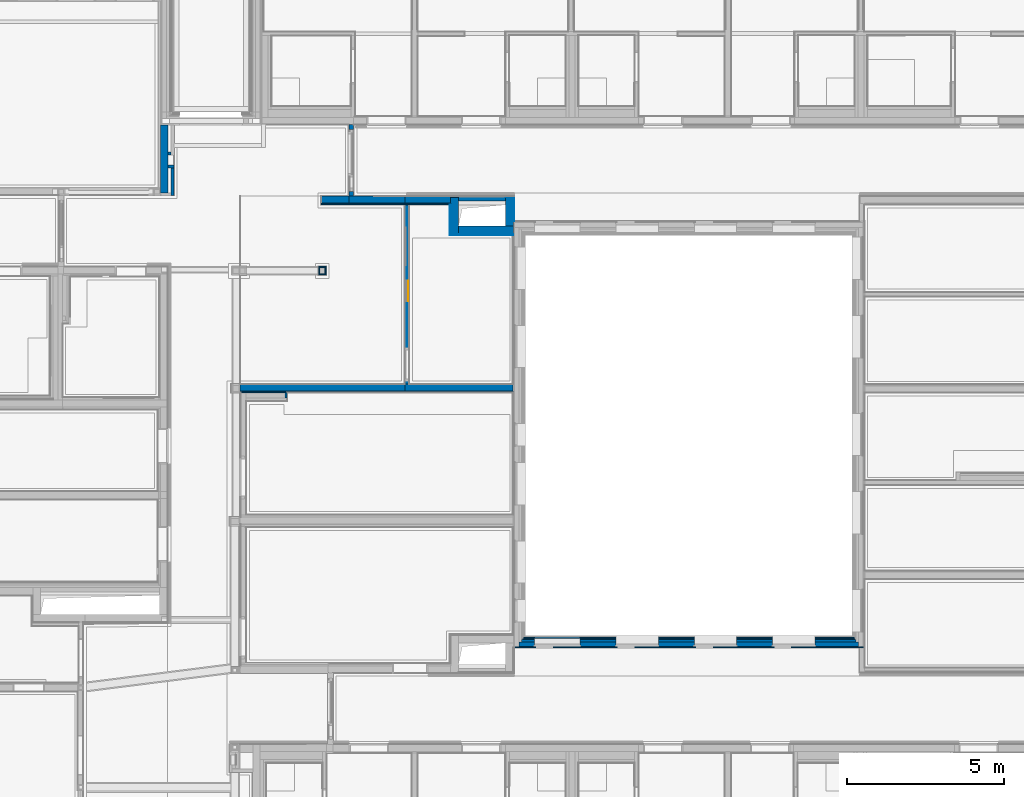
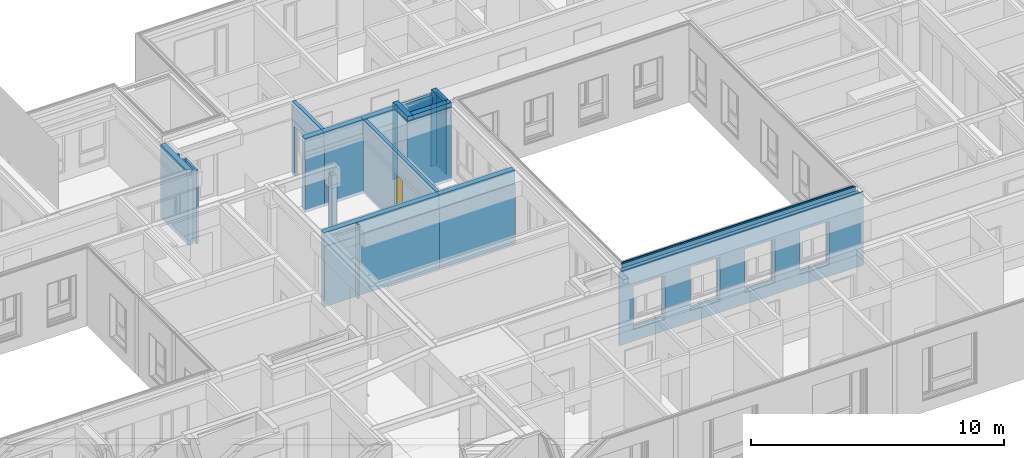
# One storey, part 46 of 222: 35 walls, 1 window, 23 openings.
"""IFC4 building model written with IfcOpenShell, lengths in metres."""

from ifc_helpers import new_model, entity, si_unit, converted_unit, derived_unit, frame, frame_2d, origin, origin_with_axes, place, context, subcontext, project, spatial, polyline, rectangle, outline, extrude, clip, bounded_halfspace, open_shell, surface_model, source, transform, mapped, material, element, fill, save


model = new_model("IFC4")

# Units and contexts
model_context = context("Model", 3, precision=1e-05, world=origin())
body_context = subcontext(model_context, "Body", "Model", "MODEL_VIEW")
ifc_project = project(units=[si_unit("LENGTHUNIT", "METRE"), si_unit("AREAUNIT", "SQUARE_METRE"), si_unit("VOLUMEUNIT", "CUBIC_METRE"), si_unit("MASSUNIT", "GRAM", prefix="KILO"), converted_unit("PLANEANGLEUNIT", "DEGREE", entity("IfcPlaneAngleMeasure", 0.0174532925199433), si_unit("PLANEANGLEUNIT", "RADIAN"), dimensions=[0, 0, 0, 0, 0, 0, 0]), derived_unit("THERMALTRANSMITTANCEUNIT", [(si_unit("POWERUNIT", "WATT"), 1), (si_unit("THERMODYNAMICTEMPERATUREUNIT", "KELVIN"), -1), (si_unit("LENGTHUNIT", "METRE"), -2)]), derived_unit("VOLUMETRICFLOWRATEUNIT", [(si_unit("LENGTHUNIT", "METRE"), 3), (converted_unit("TIMEUNIT", "hour", entity("IfcTimeMeasure", 3600.0), si_unit("TIMEUNIT", "SECOND"), dimensions=[0, 0, 1, 0, 0, 0, 0]), -1), (si_unit("LENGTHUNIT", "METRE"), -1)])], contexts=[model_context])

# Site, building, storey
site_placement = place(None, origin())
site = spatial("IfcSite", under=ifc_project, at=site_placement, Name="Psychiatrie Neubau Wunstorf", CompositionType="ELEMENT")
building_placement = place(site_placement, origin())
building = spatial("IfcBuilding", under=site, at=building_placement, Name="Neubau H2 Stationsgebäude", CompositionType="ELEMENT")
storey_placement = place(building_placement, frame((0.0, 0.0, 3.6)))
storey = spatial("IfcBuildingStorey", under=building, at=storey_placement, Name="H2 Ebene +1", CompositionType="ELEMENT", Elevation=3.6)

# Wall, openings
ifc_material_1 = material(Name="WA-LB")
wall_1_placement = place(storey_placement, frame((79.175, 8.41400000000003, 0.0), z_axis=(0.0, 0.0, 1.0), x_axis=(1.0, -6.52552252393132e-16, 0.0)))
wall_1 = element("IfcWall", 1, at=wall_1_placement, inside=storey, material=ifc_material_1, context=body_context, shape_type="SweptSolid", body=[
    extrude(rectangle(XDim=11.15, YDim=0.036, at=frame_2d((5.575, 0.018), x_axis=(1.0, 0.0))), origin_with_axes(), (0.0, 0.0, 1.0), 3.55),
])
opening_1_placement = place(wall_1_placement, frame((4.6047, 0.0359999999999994, 0.55), z_axis=(0.0, -1.0, 0.0), x_axis=(0.0, 0.0, 1.0)))
element("IfcOpeningElement", 2, at=opening_1_placement, cuts=wall_1, Name="Fensteröffnung", ObjectType="Opening", context=body_context, shape_type="SweptSolid", body=[
    extrude(outline(polyline([(2.115, 1.35), (2.115, 0.0), (0.0, 0.0), (0.0, 1.35), (2.115, 1.35)])), origin_with_axes(), (0.0, 0.0, 1.0), 0.036),
])
opening_2_placement = place(wall_1_placement, frame((7.1047, 0.0359999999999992, 0.55), z_axis=(0.0, -1.0, 0.0), x_axis=(0.0, 0.0, 1.0)))
element("IfcOpeningElement", 3, at=opening_2_placement, cuts=wall_1, Name="Fensteröffnung", ObjectType="Opening", context=body_context, shape_type="SweptSolid", body=[
    extrude(outline(polyline([(2.115, 1.35), (2.115, 0.0), (0.0, 0.0), (0.0, 1.35), (2.115, 1.35)])), origin_with_axes(), (0.0, 0.0, 1.0), 0.036),
])
opening_3_placement = place(wall_1_placement, frame((9.6047, 0.0360000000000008, 0.55), z_axis=(0.0, -1.0, 0.0), x_axis=(0.0, 0.0, 1.0)))
element("IfcOpeningElement", 4, at=opening_3_placement, cuts=wall_1, Name="Fensteröffnung", ObjectType="Opening", context=body_context, shape_type="SweptSolid", body=[
    extrude(outline(polyline([(2.115, 1.35), (2.115, 0.0), (0.0, 0.0), (0.0, 1.35), (2.115, 1.35)])), origin_with_axes(), (0.0, 0.0, 1.0), 0.036),
])
opening_4_placement = place(wall_1_placement, frame((2.1048371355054, 0.0359999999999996, 0.55), z_axis=(0.0, -1.0, 0.0), x_axis=(0.0, 0.0, 1.0)))
element("IfcOpeningElement", 5, at=opening_4_placement, cuts=wall_1, Name="Fensteröffnung", ObjectType="Opening", context=body_context, shape_type="SweptSolid", body=[
    extrude(outline(polyline([(2.115, 1.45), (2.115, 0.0), (0.0, 0.0), (0.0, 1.45), (2.115, 1.45)])), origin_with_axes(), (0.0, 0.0, 1.0), 0.036),
])

ifc_material_2 = material(Name="WA-DL")
wall_2_placement = place(storey_placement, frame((79.335, 8.45000000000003, 0.0), z_axis=(0.0, 0.0, 1.0), x_axis=(1.0, -6.71833574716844e-16, 0.0)))
wall_2 = element("IfcWall", 6, at=wall_2_placement, inside=storey, material=ifc_material_2, context=body_context, shape_type="SweptSolid", body=[
    extrude(rectangle(XDim=10.83, YDim=0.16, at=frame_2d((5.415, 0.08), x_axis=(1.0, 0.0))), origin_with_axes(), (0.0, 0.0, 1.0), 3.55),
])
opening_5_placement = place(wall_2_placement, frame((1.9448371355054, 0.16, 0.55), z_axis=(0.0, -1.0, 0.0), x_axis=(0.0, 0.0, 1.0)))
element("IfcOpeningElement", 7, at=opening_5_placement, cuts=wall_2, Name="Fensteröffnung", ObjectType="Opening", context=body_context, shape_type="SweptSolid", body=[
    extrude(outline(polyline([(2.115, 1.45), (2.115, 0.0), (0.0, 0.0), (0.0, 1.45), (2.115, 1.45)])), origin_with_axes(), (0.0, 0.0, 1.0), 0.16),
])
opening_6_placement = place(wall_2_placement, frame((9.4447, 0.160000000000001, 0.55), z_axis=(0.0, -1.0, 0.0), x_axis=(0.0, 0.0, 1.0)))
element("IfcOpeningElement", 8, at=opening_6_placement, cuts=wall_2, Name="Fensteröffnung", ObjectType="Opening", context=body_context, shape_type="SweptSolid", body=[
    extrude(outline(polyline([(2.115, 1.35), (2.115, 0.0), (0.0, 0.0), (0.0, 1.35), (2.115, 1.35)])), origin_with_axes(), (0.0, 0.0, 1.0), 0.16),
])
opening_7_placement = place(wall_2_placement, frame((6.9447, 0.159999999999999, 0.55), z_axis=(0.0, -1.0, 0.0), x_axis=(0.0, 0.0, 1.0)))
element("IfcOpeningElement", 9, at=opening_7_placement, cuts=wall_2, Name="Fensteröffnung", ObjectType="Opening", context=body_context, shape_type="SweptSolid", body=[
    extrude(outline(polyline([(2.115, 1.35), (2.115, 0.0), (0.0, 0.0), (0.0, 1.35), (2.115, 1.35)])), origin_with_axes(), (0.0, 0.0, 1.0), 0.16),
])
opening_8_placement = place(wall_2_placement, frame((4.4447, 0.159999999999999, 0.55), z_axis=(0.0, -1.0, 0.0), x_axis=(0.0, 0.0, 1.0)))
element("IfcOpeningElement", 10, at=opening_8_placement, cuts=wall_2, Name="Fensteröffnung", ObjectType="Opening", context=body_context, shape_type="SweptSolid", body=[
    extrude(outline(polyline([(2.115, 1.35), (2.115, 0.0), (0.0, 0.0), (0.0, 1.35), (2.115, 1.35)])), origin_with_axes(), (0.0, 0.0, 1.0), 0.16),
])

ifc_material_3 = material(Name="WA-DL")
wall_3_placement = place(storey_placement, frame((79.415, 8.61000000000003, 0.0), z_axis=(0.0, 0.0, 1.0), x_axis=(1.0, -6.81907930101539e-16, 0.0)))
wall_3 = element("IfcWall", 11, at=wall_3_placement, inside=storey, material=ifc_material_3, context=body_context, shape_type="SweptSolid", body=[
    extrude(rectangle(XDim=10.67, YDim=0.080009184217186, at=frame_2d((5.335, 0.040004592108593), x_axis=(1.0, 0.0))), origin_with_axes(), (0.0, 0.0, 1.0), 3.75),
])
opening_9_placement = place(wall_3_placement, frame((1.8648371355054, 0.08000918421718, 0.55), z_axis=(0.0, -1.0, 0.0), x_axis=(0.0, 0.0, 1.0)))
element("IfcOpeningElement", 12, at=opening_9_placement, cuts=wall_3, Name="Fensteröffnung", ObjectType="Opening", context=body_context, shape_type="SweptSolid", body=[
    extrude(outline(polyline([(2.115, 1.45), (2.115, 0.0), (0.0, 0.0), (0.0, 1.45), (2.115, 1.45)])), origin_with_axes(), (0.0, 0.0, 1.0), 0.0800091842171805),
])
opening_10_placement = place(wall_3_placement, frame((9.3647, 0.0800091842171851, 0.55), z_axis=(0.0, -1.0, 0.0), x_axis=(0.0, 0.0, 1.0)))
element("IfcOpeningElement", 13, at=opening_10_placement, cuts=wall_3, Name="Fensteröffnung", ObjectType="Opening", context=body_context, shape_type="SweptSolid", body=[
    extrude(outline(polyline([(2.115, 1.35), (2.115, 0.0), (0.0, 0.0), (0.0, 1.35), (2.115, 1.35)])), origin_with_axes(), (0.0, 0.0, 1.0), 0.080009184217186),
])
opening_11_placement = place(wall_3_placement, frame((6.8647, 0.0800091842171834, 0.55), z_axis=(0.0, -1.0, 0.0), x_axis=(0.0, 0.0, 1.0)))
element("IfcOpeningElement", 14, at=opening_11_placement, cuts=wall_3, Name="Fensteröffnung", ObjectType="Opening", context=body_context, shape_type="SweptSolid", body=[
    extrude(outline(polyline([(2.115, 1.35), (2.115, 0.0), (0.0, 0.0), (0.0, 1.35), (2.115, 1.35)])), origin_with_axes(), (0.0, 0.0, 1.0), 0.0800091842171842),
])
opening_12_placement = place(wall_3_placement, frame((4.3647, 0.0800091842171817, 0.55), z_axis=(0.0, -1.0, 0.0), x_axis=(0.0, 0.0, 1.0)))
element("IfcOpeningElement", 15, at=opening_12_placement, cuts=wall_3, Name="Fensteröffnung", ObjectType="Opening", context=body_context, shape_type="SweptSolid", body=[
    extrude(outline(polyline([(2.115, 1.35), (2.115, 0.0), (0.0, 0.0), (0.0, 1.35), (2.115, 1.35)])), origin_with_axes(), (0.0, 0.0, 1.0), 0.0800091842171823),
])

ifc_material_4 = material(Name="WA-LB")
wall_4_placement = place(storey_placement, frame((79.451, 8.69000918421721, 0.0)))
wall_4 = element("IfcWall", 16, at=wall_4_placement, inside=storey, material=ifc_material_4, context=body_context, shape_type="SweptSolid", body=[
    extrude(rectangle(XDim=10.598, YDim=0.036, at=frame_2d((5.299, 0.018), x_axis=(1.0, 0.0))), origin_with_axes(), (0.0, 0.0, 1.0), 3.75),
])
opening_13_placement = place(wall_4_placement, frame((1.8288371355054, 0.036, 0.55), z_axis=(0.0, -1.0, 0.0), x_axis=(0.0, 0.0, 1.0)))
element("IfcOpeningElement", 17, at=opening_13_placement, cuts=wall_4, Name="Fensteröffnung", ObjectType="Opening", context=body_context, shape_type="SweptSolid", body=[
    extrude(outline(polyline([(2.115, 1.45), (2.115, 0.0), (0.0, 0.0), (0.0, 1.45), (2.115, 1.45)])), origin_with_axes(), (0.0, 0.0, 1.0), 0.036),
])
opening_14_placement = place(wall_4_placement, frame((9.3287, 0.036, 0.55), z_axis=(0.0, -1.0, 0.0), x_axis=(0.0, 0.0, 1.0)))
element("IfcOpeningElement", 18, at=opening_14_placement, cuts=wall_4, Name="Fensteröffnung", ObjectType="Opening", context=body_context, shape_type="SweptSolid", body=[
    extrude(outline(polyline([(2.115, 1.35), (2.115, 0.0), (0.0, 0.0), (0.0, 1.35), (2.115, 1.35)])), origin_with_axes(), (0.0, 0.0, 1.0), 0.036),
])
opening_15_placement = place(wall_4_placement, frame((6.8287, 0.036, 0.55), z_axis=(0.0, -1.0, 0.0), x_axis=(0.0, 0.0, 1.0)))
element("IfcOpeningElement", 19, at=opening_15_placement, cuts=wall_4, Name="Fensteröffnung", ObjectType="Opening", context=body_context, shape_type="SweptSolid", body=[
    extrude(outline(polyline([(2.115, 1.35), (2.115, 0.0), (0.0, 0.0), (0.0, 1.35), (2.115, 1.35)])), origin_with_axes(), (0.0, 0.0, 1.0), 0.036),
])
opening_16_placement = place(wall_4_placement, frame((4.3287, 0.036, 0.55), z_axis=(0.0, -1.0, 0.0), x_axis=(0.0, 0.0, 1.0)))
element("IfcOpeningElement", 20, at=opening_16_placement, cuts=wall_4, Name="Fensteröffnung", ObjectType="Opening", context=body_context, shape_type="SweptSolid", body=[
    extrude(outline(polyline([(2.115, 1.35), (2.115, 0.0), (0.0, 0.0), (0.0, 1.35), (2.115, 1.35)])), origin_with_axes(), (0.0, 0.0, 1.0), 0.036),
])

ifc_material_5 = material(Name="WA-KL")
wall_5_placement = place(storey_placement, frame((79.475, 8.72600918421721, 0.0)))
wall_5 = element("IfcWall", 21, at=wall_5_placement, inside=storey, material=ifc_material_5, context=body_context, shape_type="SweptSolid", body=[
    extrude(rectangle(XDim=10.55, YDim=0.024, at=frame_2d((5.275, 0.012), x_axis=(1.0, 0.0))), origin_with_axes(), (0.0, 0.0, 1.0), 3.75),
])
opening_17_placement = place(wall_5_placement, frame((1.8048371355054, 0.024, 0.55), z_axis=(0.0, -1.0, 0.0), x_axis=(0.0, 0.0, 1.0)))
element("IfcOpeningElement", 22, at=opening_17_placement, cuts=wall_5, Name="Fensteröffnung", ObjectType="Opening", context=body_context, shape_type="SweptSolid", body=[
    extrude(outline(polyline([(2.115, 1.45), (2.115, 0.0), (0.0, 0.0), (0.0, 1.45), (2.115, 1.45)])), origin_with_axes(), (0.0, 0.0, 1.0), 0.024),
])
opening_18_placement = place(wall_5_placement, frame((9.3047, 0.024, 0.55), z_axis=(0.0, -1.0, 0.0), x_axis=(0.0, 0.0, 1.0)))
element("IfcOpeningElement", 23, at=opening_18_placement, cuts=wall_5, Name="Fensteröffnung", ObjectType="Opening", context=body_context, shape_type="SweptSolid", body=[
    extrude(outline(polyline([(2.115, 1.35), (2.115, 0.0), (0.0, 0.0), (0.0, 1.35), (2.115, 1.35)])), origin_with_axes(), (0.0, 0.0, 1.0), 0.024),
])
opening_19_placement = place(wall_5_placement, frame((6.8047, 0.024, 0.55), z_axis=(0.0, -1.0, 0.0), x_axis=(0.0, 0.0, 1.0)))
element("IfcOpeningElement", 24, at=opening_19_placement, cuts=wall_5, Name="Fensteröffnung", ObjectType="Opening", context=body_context, shape_type="SweptSolid", body=[
    extrude(outline(polyline([(2.115, 1.35), (2.115, 0.0), (0.0, 0.0), (0.0, 1.35), (2.115, 1.35)])), origin_with_axes(), (0.0, 0.0, 1.0), 0.024),
])
opening_20_placement = place(wall_5_placement, frame((4.3047, 0.024, 0.55), z_axis=(0.0, -1.0, 0.0), x_axis=(0.0, 0.0, 1.0)))
element("IfcOpeningElement", 25, at=opening_20_placement, cuts=wall_5, Name="Fensteröffnung", ObjectType="Opening", context=body_context, shape_type="SweptSolid", body=[
    extrude(outline(polyline([(2.115, 1.35), (2.115, 0.0), (0.0, 0.0), (0.0, 1.35), (2.115, 1.35)])), origin_with_axes(), (0.0, 0.0, 1.0), 0.024),
])

# Walls
ifc_material_6 = material(Name="WI-IW")
wall_6_placement = place(storey_placement, frame((71.9300000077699, 16.3855, 0.0), z_axis=(0.0, 0.0, 1.0), x_axis=(0.0, 1.0, 0.0)))
element("IfcWall", 26, at=wall_6_placement, inside=storey, material=ifc_material_6, context=body_context, shape_type="SweptSolid", body=[
    extrude(rectangle(XDim=0.175, YDim=0.075, at=frame_2d((0.0875, 0.0375), x_axis=(1.0, 0.0))), origin_with_axes(), (0.0, 0.0, 1.0), 3.55),
])
ifc_material_7 = material(Name="WI-LB")
wall_7_placement = place(storey_placement, frame((77.15, 21.6250000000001, 0.0), z_axis=(0.0, 0.0, 1.0), x_axis=(0.0, 1.0, 0.0)))
element("IfcWall", 27, at=wall_7_placement, inside=storey, material=ifc_material_7, context=body_context, shape_type="SweptSolid", body=[
    extrude(rectangle(XDim=0.938999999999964, YDim=0.0299996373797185, at=frame_2d((0.469499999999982, 0.0149998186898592), x_axis=(1.0, 0.0))), origin_with_axes(), (0.0, 0.0, 1.0), 3.55),
])
ifc_material_8 = material(Name="WI-LB")
wall_8_placement = place(storey_placement, frame((79.15, 22.8060000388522, 0.0), z_axis=(0.0, 0.0, 1.0), x_axis=(0.0, -1.0, 0.0)))
element("IfcWall", 28, at=wall_8_placement, inside=storey, material=ifc_material_8, context=body_context, shape_type="SweptSolid", body=[
    extrude(rectangle(XDim=0.770000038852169, YDim=0.0299996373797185, at=frame_2d((0.385000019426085, 0.0149998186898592), x_axis=(1.0, 0.0))), origin_with_axes(), (0.0, 0.0, 1.0), 3.55),
])
ifc_material_9 = material(Name="WI-HW 60")
wall_9_placement = place(storey_placement, frame((68.121, 22.9389999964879, 0.0), z_axis=(0.0, 0.0, 1.0), x_axis=(0.0, 1.0, 0.0)))
element("IfcWall", 29, at=wall_9_placement, inside=storey, material=ifc_material_9, context=body_context, shape_type="Clipping", body=[
    clip(extrude(rectangle(XDim=2.17500366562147, YDim=0.232, at=frame_2d((1.08750183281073, 0.116), x_axis=(1.0, 0.0))), origin_with_axes(), (0.0, 0.0, 1.0), 3.55), bounded_halfspace(frame((0.0605000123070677, 0.149999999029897, 3.25), z_axis=(0.0, 0.0, -1.0), x_axis=(0.999999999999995, -9.94981656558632e-08, 0.0)), True, origin_with_axes(), polyline([(0.0, 0.0680000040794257), (0.121000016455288, 0.067999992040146), (0.12100003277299, 0.232), (0.0, 0.232), (0.0, 0.0680000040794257)]))),
])
ifc_material_10 = material(Name="WI-LB")
wall_10_placement = place(storey_placement, frame((73.9, 22.564, 0.0), z_axis=(0.0, 0.0, 1.0), x_axis=(1.0, 3.05883868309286e-14, 0.0)))
element("IfcWall", 30, at=wall_10_placement, inside=storey, material=ifc_material_10, context=body_context, shape_type="SweptSolid", body=[
    extrude(rectangle(XDim=1.78399999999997, YDim=0.04, at=frame_2d((0.891999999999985, 0.02), x_axis=(1.0, 0.0))), origin_with_axes(), (0.0, 0.0, 1.0), 2.9),
])
ifc_material_11 = material(Name="WI-HW 60")
wall_11_placement = place(storey_placement, frame((73.9, 22.604, 0.0), z_axis=(0.0, 0.0, 1.0), x_axis=(1.0, 3.05883868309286e-14, 0.0)))
element("IfcWall", 31, at=wall_11_placement, inside=storey, material=ifc_material_11, context=body_context, shape_type="SweptSolid", body=[
    extrude(rectangle(XDim=1.78399999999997, YDim=0.232, at=frame_2d((0.891999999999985, 0.116), x_axis=(1.0, 0.0))), origin_with_axes(), (0.0, 0.0, 1.0), 3.55),
])
ifc_material_12 = material(Name="WI-LB")
wall_12_placement = place(storey_placement, frame((73.0219999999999, 22.5640000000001, 0.0), z_axis=(0.0, 0.0, 1.0), x_axis=(1.0, -6.21522575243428e-14, 0.0)))
element("IfcWall", 32, at=wall_12_placement, inside=storey, material=ifc_material_12, context=body_context, shape_type="SweptSolid", body=[
    extrude(rectangle(XDim=0.878000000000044, YDim=0.04, at=frame_2d((0.439000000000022, 0.02), x_axis=(1.0, 0.0))), origin_with_axes(), (0.0, 0.0, 1.0), 2.9),
])
ifc_material_13 = material(Name="WI-HW 60")
wall_13_placement = place(storey_placement, frame((73.022, 22.6040000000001, 0.0), z_axis=(0.0, 0.0, 1.0), x_axis=(1.0, -6.21522575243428e-14, 0.0)))
element("IfcWall", 33, at=wall_13_placement, inside=storey, material=ifc_material_13, context=body_context, shape_type="SweptSolid", body=[
    extrude(rectangle(XDim=0.878000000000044, YDim=0.232000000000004, at=frame_2d((0.439000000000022, 0.116000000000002), x_axis=(1.0, 0.0))), origin_with_axes(), (0.0, 0.0, 1.0), 3.55),
])
ifc_material_14 = material(Name="WI-STB")
wall_14_placement = place(storey_placement, frame((79.15, 21.8750000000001, 0.0), z_axis=(0.0, 0.0, 1.0), x_axis=(0.0, 1.0, 0.0)))
element("IfcWall", 34, at=wall_14_placement, inside=storey, material=ifc_material_14, context=body_context, shape_type="Clipping", body=[
    clip(extrude(rectangle(XDim=0.930999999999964, YDim=0.25, at=frame_2d((0.465499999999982, 0.125), x_axis=(1.0, 0.0))), origin_with_axes(), (0.0, 0.0, 1.0), 3.75), bounded_halfspace(frame((0.80600042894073, 0.125, 0.1), z_axis=(0.0, 0.0, 1.0), x_axis=(0.0, -1.0, 0.0)), True, origin_with_axes(), polyline([(0.6810008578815, 0.25), (0.6810008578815, 0.0), (0.930999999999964, 0.0), (0.930999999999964, 0.25), (0.6810008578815, 0.25)]))),
])
ifc_material_15 = material(Name="WI-LB")
wall_15_placement = place(storey_placement, frame((75.684, 22.5640000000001, 0.0)))
element("IfcWall", 35, at=wall_15_placement, inside=storey, material=ifc_material_15, context=body_context, shape_type="SweptSolid", body=[
    extrude(rectangle(XDim=1.466, YDim=0.04, at=frame_2d((0.733, 0.02), x_axis=(1.0, 0.0))), origin_with_axes(), (0.0, 0.0, 1.0), 2.9),
])
ifc_material_16 = material(Name="WI-HW 60")
wall_16_placement = place(storey_placement, frame((75.684, 22.6040000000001, 0.0)))
element("IfcWall", 36, at=wall_16_placement, inside=storey, material=ifc_material_16, context=body_context, shape_type="SweptSolid", body=[
    extrude(rectangle(XDim=1.466, YDim=0.232, at=frame_2d((0.733, 0.116), x_axis=(1.0, 0.0))), origin_with_axes(), (0.0, 0.0, 1.0), 3.55),
])
ifc_material_17 = material(Name="WI-STB")
wall_17_placement = place(storey_placement, frame((77.4, 21.6250000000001, 0.0), z_axis=(0.0, 0.0, 1.0), x_axis=(0.0, 1.0, 0.0)))
element("IfcWall", 37, at=wall_17_placement, inside=storey, material=ifc_material_17, context=body_context, shape_type="Clipping", body=[
    clip(extrude(rectangle(XDim=1.18099999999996, YDim=0.25, at=frame_2d((0.590499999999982, 0.125), x_axis=(1.0, 0.0))), origin_with_axes(), (0.0, 0.0, 1.0), 3.75), bounded_halfspace(frame((1.05600042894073, 0.125, 0.1), z_axis=(0.0, 0.0, 1.0), x_axis=(0.0, -1.0, 0.0)), True, origin_with_axes(), polyline([(0.9310008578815, 0.25), (0.9310008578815, 0.0), (1.18099999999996, 0.0), (1.18099999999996, 0.25), (0.9310008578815, 0.25)]))),
])
ifc_material_18 = material(Name="WI-LB")
wall_18_placement = place(storey_placement, frame((77.1200003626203, 21.5950003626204, 0.0)))
element("IfcWall", 38, at=wall_18_placement, inside=storey, material=ifc_material_18, context=body_context, shape_type="SweptSolid", body=[
    extrude(rectangle(XDim=2.02999963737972, YDim=0.0299996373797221, at=frame_2d((1.01499981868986, 0.0149998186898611), x_axis=(1.0, 0.0))), origin_with_axes(), (0.0, 0.0, 1.0), 3.55),
])
ifc_material_19 = material(Name="WI-STB")
wall_19_placement = place(storey_placement, frame((77.4, 21.6250000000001, 0.0)))
element("IfcWall", 39, at=wall_19_placement, inside=storey, material=ifc_material_19, context=body_context, shape_type="SweptSolid", body=[
    extrude(rectangle(XDim=1.75, YDim=0.25, at=frame_2d((0.875, 0.125), x_axis=(1.0, 0.0))), origin_with_axes(), (0.0, 0.0, 1.0), 3.75),
])
ifc_material_20 = material(Name="WI-GKF")
wall_20_placement = place(storey_placement, frame((73.1719970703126, 20.3560022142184, 0.0), z_axis=(0.0, 0.0, 1.0), x_axis=(0.0, 1.0, 0.0)))
element("IfcWall", 40, at=wall_20_placement, inside=storey, material=ifc_material_20, context=body_context, shape_type="SweptSolid", body=[
    extrude(rectangle(XDim=0.2, YDim=0.036, at=frame_2d((0.1, 0.018), x_axis=(1.0, 0.0))), origin_with_axes(), (0.0, 0.0, 1.0), 3.15),
])
ifc_material_21 = material(Name="WI-GKF")
wall_21_placement = place(storey_placement, frame((73.172, 20.5920022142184, 0.0), z_axis=(0.0, 0.0, 1.0), x_axis=(-1.0, 0.0, 0.0)))
element("IfcWall", 41, at=wall_21_placement, inside=storey, material=ifc_material_21, context=body_context, shape_type="SweptSolid", body=[
    extrude(outline(polyline([(-0.232, -0.036), (0.0, -0.036), (0.0, 0.0), (-0.035997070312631, 0.0), (-0.232, 0.0), (-0.232, -0.036)])), frame((0.232, 0.036, 0.0), z_axis=(0.0, 0.0, 1.0), x_axis=(1.0, 0.0, 0.0)), (0.0, 0.0, 1.0), 3.15),
])
ifc_material_22 = material(Name="WI-GKF")
wall_22_placement = place(storey_placement, frame((72.94, 20.3200022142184, 0.0)))
element("IfcWall", 42, at=wall_22_placement, inside=storey, material=ifc_material_22, context=body_context, shape_type="SweptSolid", body=[
    extrude(rectangle(XDim=0.231997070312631, YDim=0.036, at=frame_2d((0.115998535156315, 0.018), x_axis=(1.0, 0.0))), origin_with_axes(), (0.0, 0.0, 1.0), 3.15),
])
ifc_material_23 = material(Name="WI-GKF")
wall_23_placement = place(storey_placement, frame((72.94, 20.5560022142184, 0.0), z_axis=(0.0, 0.0, 1.0), x_axis=(0.0, -1.0, 0.0)))
element("IfcWall", 43, at=wall_23_placement, inside=storey, material=ifc_material_23, context=body_context, shape_type="SweptSolid", body=[
    extrude(rectangle(XDim=0.2, YDim=0.035997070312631, at=frame_2d((0.1, 0.0179985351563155), x_axis=(1.0, 0.0))), origin_with_axes(), (0.0, 0.0, 1.0), 3.15),
])
ifc_material_24 = material(Name="WI-LB")
wall_24_placement = place(storey_placement, frame((79.1799996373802, 22.8359996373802, 0.0), z_axis=(0.0, 0.0, 1.0), x_axis=(-0.999999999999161, 1.29507246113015e-06, 0.0)))
element("IfcWall", 44, at=wall_24_placement, inside=storey, material=ifc_material_24, context=body_context, shape_type="SweptSolid", body=[
    extrude(rectangle(XDim=0.279999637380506, YDim=0.0299996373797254, at=frame_2d((0.139999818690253, 0.0149998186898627), x_axis=(1.0, 0.0))), origin_with_axes(), (0.0, 0.0, 1.0), 3.55),
])
ifc_material_25 = material(Name="WI-LB")
wall_25_placement = place(storey_placement, frame((77.4, 22.8360000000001, 0.0), z_axis=(0.0, 0.0, 1.0), x_axis=(-1.0, 0.0, 0.0)))
element("IfcWall", 45, at=wall_25_placement, inside=storey, material=ifc_material_25, context=body_context, shape_type="SweptSolid", body=[
    extrude(rectangle(XDim=0.25, YDim=0.0299996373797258, at=frame_2d((0.125, 0.0149998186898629), x_axis=(1.0, 0.0))), origin_with_axes(), (0.0, 0.0, 1.0), 3.55),
])
ifc_material_26 = material(Name="WI-LB")
wall_26_placement = place(storey_placement, frame((68.321, 22.8639999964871, 0.0), z_axis=(0.0, 0.0, 1.0), x_axis=(0.0, 1.0, 0.0)))
element("IfcWall", 46, at=wall_26_placement, inside=storey, material=ifc_material_26, context=body_context, shape_type="SweptSolid", body=[
    extrude(rectangle(XDim=0.8625, YDim=0.1, at=frame_2d((0.43125, 0.05), x_axis=(1.0, 0.0))), origin_with_axes(), (0.0, 0.0, 1.0), 3.55),
])
ifc_material_27 = material(Name="WI-LB")
wall_27_placement = place(storey_placement, frame((68.121, 24.1515036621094, 0.0)))
element("IfcWall", 47, at=wall_27_placement, inside=storey, material=ifc_material_27, context=body_context, shape_type="SweptSolid", body=[
    extrude(rectangle(XDim=0.1, YDim=0.1, at=frame_2d((0.05, 0.05), x_axis=(1.0, 0.0))), origin_with_axes(), (0.0, 0.0, 1.0), 3.55),
])
ifc_material_28 = material(Name="WI-LB")
wall_28_placement = place(storey_placement, frame((68.321, 23.8264999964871, 0.0), z_axis=(0.0, 0.0, 1.0), x_axis=(-1.0, 0.0, 0.0)))
element("IfcWall", 48, at=wall_28_placement, inside=storey, material=ifc_material_28, context=body_context, shape_type="SweptSolid", body=[
    extrude(rectangle(XDim=0.2, YDim=0.1, at=frame_2d((0.1, 0.05), x_axis=(1.0, 0.0))), origin_with_axes(), (0.0, 0.0, 1.0), 3.55),
])
ifc_material_29 = material(Name="WI-LB")
wall_29_placement = place(storey_placement, frame((77.4, 22.6860000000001, 0.0)))
element("IfcWall", 49, at=wall_29_placement, inside=storey, material=ifc_material_29, context=body_context, shape_type="Clipping", body=[
    clip(extrude(rectangle(XDim=1.5, YDim=0.15, at=frame_2d((0.75, 0.075), x_axis=(1.0, 0.0))), origin_with_axes(), (0.0, 0.0, 1.0), 3.55), bounded_halfspace(frame((0.75, 0.0600004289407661, 0.1), z_axis=(0.0, 0.0, 1.0), x_axis=(1.0, 0.0, 0.0)), True, origin_with_axes(), polyline([(0.0, 0.0), (1.5, 0.0), (1.5, 0.120000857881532), (0.0, 0.120000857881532), (0.0, 0.0)]))),
])

# Wall, openings, window
ifc_material_30 = material(Name="WI-LB")
wall_30_placement = place(storey_placement, frame((75.684, 22.5640000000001, 0.0), z_axis=(0.0, 0.0, 1.0), x_axis=(0.0, -1.0, 0.0)))
wall_30 = element("IfcWall", 50, at=wall_30_placement, inside=storey, material=ifc_material_30, context=body_context, shape_type="SweptSolid", body=[
    extrude(rectangle(XDim=5.73150000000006, YDim=0.15, at=frame_2d((2.86575000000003, 0.075), x_axis=(1.0, 0.0))), origin_with_axes(), (0.0, 0.0, 1.0), 3.55),
])
opening_21_placement = place(wall_30_placement, frame((2.42720215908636, 0.0, 0.59), z_axis=(0.0, 1.0, 0.0), x_axis=(0.0, 0.0, 1.0)))
opening_21 = element("IfcOpeningElement", 51, at=opening_21_placement, cuts=wall_30, Name="Fensteröffnung", ObjectType="Opening", context=body_context, shape_type="SweptSolid", body=[
    extrude(outline(polyline([(1.88, 0.649942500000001), (1.88, 0.0), (0.0, 0.0), (0.0, 0.649942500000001), (1.88, 0.649942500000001)])), origin_with_axes(), (0.0, 0.0, 1.0), 0.15),
])
opening_22_placement = place(wall_30_placement, frame((4.59650000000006, 0.0, 0.0), z_axis=(0.0, 1.0, 0.0), x_axis=(0.0, 0.0, 1.0)))
element("IfcOpeningElement", 52, at=opening_22_placement, cuts=wall_30, Name="Türöffnung", ObjectType="Opening", context=body_context, shape_type="SweptSolid", body=[
    extrude(outline(polyline([(2.41, 1.01), (2.41, 0.0), (0.0, 0.0), (0.0, 1.01), (2.41, 1.01)])), origin_with_axes(), (0.0, 0.0, 1.0), 0.15),
])
shared_shape = source(origin_with_axes(), body_context, "Body", "SurfaceModel", [
    surface_model("IfcShellBasedSurfaceModel", [(0.0, 0.0349999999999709, 0.0), (0.0, 0.0349999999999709, 1.88), (0.649942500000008, 0.0349999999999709, 1.88), (0.649942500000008, 0.0349999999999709, 0.0)], [open_shell([[[0, 1, 2, 3]]], orient=[[False]])]),
])
window_placement = place(opening_21_placement, frame((0.0, 0.0, 0.08), z_axis=(1.0, 0.0, 0.0), x_axis=(0.0, 1.0, 0.0)))
window = element("IfcWindow", 53, at=window_placement, inside=storey, Name="Fenster", OverallHeight=1.88, OverallWidth=0.64994, PartitioningType="USERDEFINED", PredefinedType="WINDOW", context=body_context, shape_type="MappedRepresentation", body=[
    mapped(shared_shape, transform((0.0, 0.0, 0.0), x_axis=(1.0, 0.0, 0.0), y_axis=(0.0, 1.0, 0.0), z_axis=(0.0, 0.0, 1.0), scale=1.0)),
])
fill(opening_21, window)

# Wall, opening
ifc_material_31 = material(Name="WI-LB")
wall_31_placement = place(storey_placement, frame((74.055, 22.836, 0.0), z_axis=(0.0, 0.0, 1.0), x_axis=(0.0, 1.0, 0.0)))
wall_31 = element("IfcWall", 54, at=wall_31_placement, inside=storey, material=ifc_material_31, context=body_context, shape_type="SweptSolid", body=[
    extrude(rectangle(XDim=2.28149999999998, YDim=0.155, at=frame_2d((1.14074999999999, 0.0775), x_axis=(1.0, 0.0))), origin_with_axes(), (0.0, 0.0, 1.0), 3.55),
])
opening_23_placement = place(wall_31_placement, frame((0.155000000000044, 0.0, 0.0), z_axis=(0.0, 1.0, 0.0), x_axis=(0.0, 0.0, 1.0)))
element("IfcOpeningElement", 55, at=opening_23_placement, cuts=wall_31, Name="Türöffnung", ObjectType="Opening", context=body_context, shape_type="SweptSolid", body=[
    extrude(outline(polyline([(2.41, 1.9715), (2.41, 0.0), (0.0, 0.0), (0.0, 1.9715), (2.41, 1.9715)])), origin_with_axes(), (0.0, 0.0, 1.0), 0.155),
])

# Walls
ifc_material_32 = material(Name="WI-LB")
wall_32_placement = place(storey_placement, frame((70.4300000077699, 16.5605, 0.0)))
element("IfcWall", 56, at=wall_32_placement, inside=storey, material=ifc_material_32, context=body_context, shape_type="SweptSolid", body=[
    extrude(rectangle(XDim=5.25399999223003, YDim=0.04, at=frame_2d((2.62699999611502, 0.02), x_axis=(1.0, 0.0))), origin_with_axes(), (0.0, 0.0, 1.0), 2.9),
])
ifc_material_33 = material(Name="WI-HW 60")
wall_33_placement = place(storey_placement, frame((70.4300000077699, 16.6005, 0.0)))
element("IfcWall", 57, at=wall_33_placement, inside=storey, material=ifc_material_33, context=body_context, shape_type="SweptSolid", body=[
    extrude(rectangle(XDim=5.25399999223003, YDim=0.232, at=frame_2d((2.62699999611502, 0.116), x_axis=(1.0, 0.0))), origin_with_axes(), (0.0, 0.0, 1.0), 3.55),
])
ifc_material_34 = material(Name="WI-LB")
wall_34_placement = place(storey_placement, frame((75.684, 16.5605, 0.0)))
element("IfcWall", 58, at=wall_34_placement, inside=storey, material=ifc_material_34, context=body_context, shape_type="SweptSolid", body=[
    extrude(rectangle(XDim=3.455, YDim=0.04, at=frame_2d((1.7275, 0.02), x_axis=(1.0, 0.0))), origin_with_axes(), (0.0, 0.0, 1.0), 2.9),
])
ifc_material_35 = material(Name="WI-HW 60")
wall_35_placement = place(storey_placement, frame((75.684, 16.6005, 0.0)))
element("IfcWall", 59, at=wall_35_placement, inside=storey, material=ifc_material_35, context=body_context, shape_type="SweptSolid", body=[
    extrude(rectangle(XDim=3.455, YDim=0.232, at=frame_2d((1.7275, 0.116), x_axis=(1.0, 0.0))), origin_with_axes(), (0.0, 0.0, 1.0), 3.55),
])

save(model, "model.ifc")
